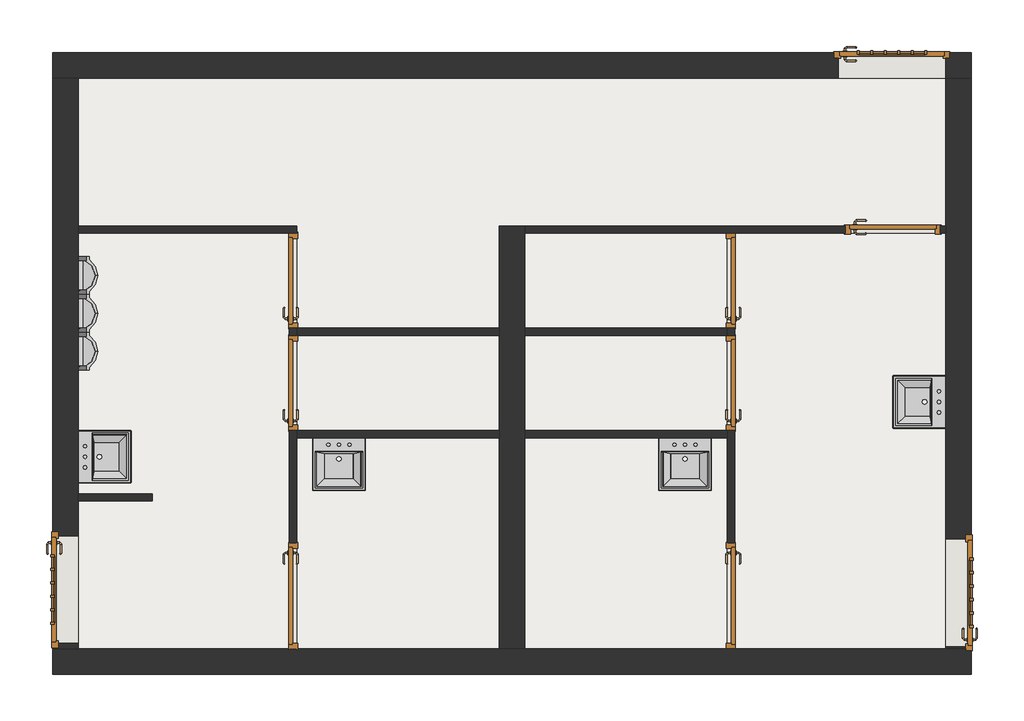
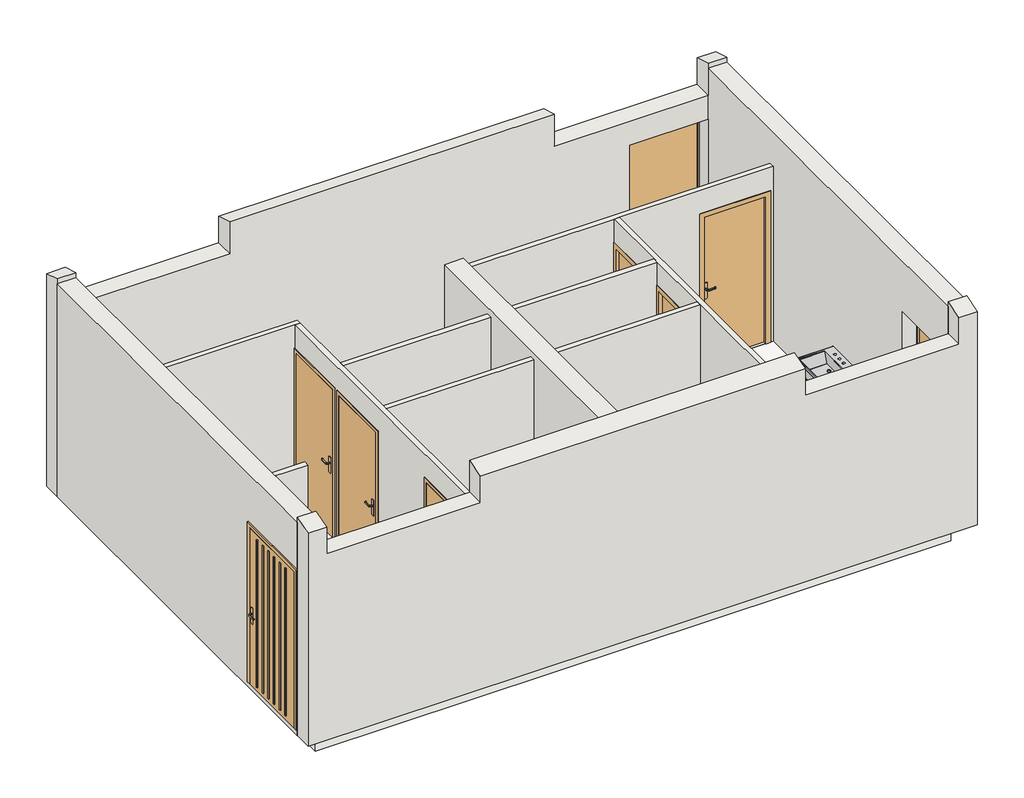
# One storey, incomplete: 14 walls, 10 doors, 7 flow terminals, 1 slab.
"""IFC4 building model written with IfcOpenShell, lengths in millimetres."""

from ifc_helpers import new_model, si_unit, frame, origin, origin_with_axes, place, context, project, spatial, polyline, outline, extrude, faceted_brep, transform, mapped, element, save
from components import door_6cb85fd8, door_bd890e63, simple_r_0_83m_x_2_04m_4088704a, simple_r_0_83m_x_2_04m_17fec2bd, simple_r_0_93m_x_2_04m_08e01e11, simple_r_0_93m_x_2_04m_b10a4dcd, flow_terminal_5b525c9b, lavabo_mural_02_400mm_x_500mm_55957bde, lavabo_mural_02_400mm_x_500mm_58a97094

model = new_model("IFC4")

# Units and contexts
model_context = context("Model", 3, world=origin())
ifc_project = project(units=[si_unit("LENGTHUNIT", "METRE", prefix="MILLI")], contexts=[model_context])

# Site, building, storey
site = spatial("IfcSite", under=ifc_project)
building = spatial("IfcBuilding", under=site)
storey = spatial("IfcBuildingStorey", under=building, Name="Repérage des pièces", Elevation=0.0)

# Doors
placement = place(None, origin())
door_shape = door_6cb85fd8(model_context)
element("IfcDoor", 1, ObjectType="PVC Panneau Vitré - Traverse et barreaux : 1 m x 2.15m", at=placement, inside=storey, context=model_context, shape_type="MappedRepresentation", body=[
    mapped(door_shape, transform((3992.180156, 27356.1413117, 0.0), x_axis=(1.0, 0.0, 0.0), y_axis=(0.0, 1.0, 0.0), z_axis=(0.0, 0.0, 1.0))),
])
door_2_shape = door_bd890e63(model_context)
element("IfcDoor", 2, ObjectType="PVC Panneau Vitré - Traverse et barreaux : 1 m x 2.15m", at=placement, inside=storey, context=model_context, shape_type="MappedRepresentation", body=[
    mapped(door_2_shape, transform((4622.180156, 22356.1413117, 0.0), x_axis=(0.0, 1.0, 0.0), y_axis=(-1.0, 0.0, 0.0), z_axis=(0.0, 0.0, 1.0))),
])
element("IfcDoor", 3, ObjectType="PVC Panneau Vitré - Traverse et barreaux : 1 m x 2.15m", at=placement, inside=storey, context=model_context, shape_type="MappedRepresentation", body=[
    mapped(door_2_shape, transform((-3837.819844, 22386.1413117, 0.0), x_axis=(0.0, -1.0, 0.0), y_axis=(1.0, 0.0, 0.0), z_axis=(0.0, 0.0, 1.0))),
])
simple_r_0_83m_x_2_04m_shape = simple_r_0_83m_x_2_04m_4088704a(model_context)
element("IfcDoor", 4, ObjectType="Simple (R) : 0.83m x 2.04m", at=placement, inside=storey, context=model_context, shape_type="MappedRepresentation", body=[
    mapped(simple_r_0_83m_x_2_04m_shape, transform((-1682.819844, 24346.1413117, 0.0), x_axis=(0.0, 1.0, 0.0), y_axis=(-1.0, 0.0, 0.0), z_axis=(0.0, 0.0, 1.0))),
])
element("IfcDoor", 5, ObjectType="Simple (R) : 0.83m x 2.04m", at=placement, inside=storey, context=model_context, shape_type="MappedRepresentation", body=[
    mapped(simple_r_0_83m_x_2_04m_shape, transform((-1682.819844, 25316.1413117, 0.0), x_axis=(0.0, 1.0, 0.0), y_axis=(-1.0, 0.0, 0.0), z_axis=(0.0, 0.0, 1.0))),
])
element("IfcDoor", 6, ObjectType="Simple (R) : 0.83m x 2.04m", at=placement, inside=storey, context=model_context, shape_type="MappedRepresentation", body=[
    mapped(simple_r_0_83m_x_2_04m_shape, transform((4002.180156, 25801.1413117, 0.0), x_axis=(1.0, 0.0, 0.0), y_axis=(0.0, 1.0, 0.0), z_axis=(0.0, 0.0, 1.0))),
])
simple_r_0_83m_x_2_04m_2_shape = simple_r_0_83m_x_2_04m_17fec2bd(model_context)
element("IfcDoor", 7, ObjectType="Simple (R) : 0.83m x 2.04m", at=placement, inside=storey, context=model_context, shape_type="MappedRepresentation", body=[
    mapped(simple_r_0_83m_x_2_04m_2_shape, transform((2467.180156, 25316.1413117, 0.0), x_axis=(0.0, 1.0, 0.0), y_axis=(-1.0, 0.0, 0.0), z_axis=(0.0, 0.0, 1.0))),
])
element("IfcDoor", 8, ObjectType="Simple (R) : 0.83m x 2.04m", at=placement, inside=storey, context=model_context, shape_type="MappedRepresentation", body=[
    mapped(simple_r_0_83m_x_2_04m_2_shape, transform((2467.180156, 24346.1413117, 0.0), x_axis=(0.0, 1.0, 0.0), y_axis=(-1.0, 0.0, 0.0), z_axis=(0.0, 0.0, 1.0))),
])
simple_r_0_93m_x_2_04m_shape = simple_r_0_93m_x_2_04m_08e01e11(model_context)
element("IfcDoor", 9, ObjectType="Simple (R) : 0.93m x 2.04m", at=placement, inside=storey, context=model_context, shape_type="MappedRepresentation", body=[
    mapped(simple_r_0_93m_x_2_04m_shape, transform((-1682.819844, 22326.1413117, 0.0), x_axis=(0.0, -1.0, 0.0), y_axis=(1.0, 0.0, 0.0), z_axis=(0.0, 0.0, 1.0))),
])
simple_r_0_93m_x_2_04m_2_shape = simple_r_0_93m_x_2_04m_b10a4dcd(model_context)
element("IfcDoor", 10, ObjectType="Simple (R) : 0.93m x 2.04m", at=placement, inside=storey, context=model_context, shape_type="MappedRepresentation", body=[
    mapped(simple_r_0_93m_x_2_04m_2_shape, transform((2467.180156, 22326.1413117, 0.0), x_axis=(0.0, -1.0, 0.0), y_axis=(1.0, 0.0, 0.0), z_axis=(0.0, 0.0, 1.0))),
])

# Flow terminals
flow_terminal_shape = flow_terminal_5b525c9b(model_context)
element("IfcFlowTerminal", 11, ObjectType="Urinoir - Mur : Urinoir - Mur", at=placement, inside=storey, context=model_context, shape_type="MappedRepresentation", body=[
    mapped(flow_terminal_shape, transform((-3837.819844, 25257.0667118, 0.0), x_axis=(0.0, -1.0, 0.0), y_axis=(1.0, 0.0, 0.0), z_axis=(0.0, 0.0, 1.0))),
])
element("IfcFlowTerminal", 12, ObjectType="Urinoir - Mur : Urinoir - Mur", at=placement, inside=storey, context=model_context, shape_type="MappedRepresentation", body=[
    mapped(flow_terminal_shape, transform((-3837.819844, 24897.0667118, 0.0), x_axis=(0.0, -1.0, 0.0), y_axis=(1.0, 0.0, 0.0), z_axis=(0.0, 0.0, 1.0))),
])
element("IfcFlowTerminal", 13, ObjectType="Urinoir - Mur : Urinoir - Mur", at=placement, inside=storey, context=model_context, shape_type="MappedRepresentation", body=[
    mapped(flow_terminal_shape, transform((-3837.819844, 24537.0667118, 0.0), x_axis=(0.0, -1.0, 0.0), y_axis=(1.0, 0.0, 0.0), z_axis=(0.0, 0.0, 1.0))),
])
lavabo_mural_02_400mm_x_500mm_shape = lavabo_mural_02_400mm_x_500mm_55957bde(model_context)
element("IfcFlowTerminal", 14, ObjectType="Lavabo mural - 02 : 400mm x 500mm", at=placement, inside=storey, context=model_context, shape_type="MappedRepresentation", body=[
    mapped(lavabo_mural_02_400mm_x_500mm_shape, transform((4622.180156, 24041.1413117, -0.3807718), x_axis=(0.0, 1.0, 0.0), y_axis=(-1.0, 0.0, 0.0), z_axis=(0.0, 0.0, 1.0))),
])
element("IfcFlowTerminal", 15, ObjectType="Lavabo mural - 02 : 400mm x 500mm", at=placement, inside=storey, context=model_context, shape_type="MappedRepresentation", body=[
    mapped(lavabo_mural_02_400mm_x_500mm_shape, transform((-3837.819844, 23771.1413117, -0.3807718), x_axis=(0.0, -1.0, 0.0), y_axis=(1.0, 0.0, 0.0), z_axis=(0.0, 0.0, 1.0))),
])
lavabo_mural_02_400mm_x_500mm_2_shape = lavabo_mural_02_400mm_x_500mm_58a97094(model_context)
element("IfcFlowTerminal", 16, ObjectType="Lavabo mural - 02 : 400mm x 500mm", at=placement, inside=storey, context=model_context, shape_type="MappedRepresentation", body=[
    mapped(lavabo_mural_02_400mm_x_500mm_2_shape, transform((-1122.819844, 23861.1413117, -0.3807718), x_axis=(-1.0, 0.0, 0.0), y_axis=(0.0, -1.0, 0.0), z_axis=(0.0, 0.0, 1.0))),
])
element("IfcFlowTerminal", 17, ObjectType="Lavabo mural - 02 : 400mm x 500mm", at=placement, inside=storey, context=model_context, shape_type="MappedRepresentation", body=[
    mapped(lavabo_mural_02_400mm_x_500mm_2_shape, transform((2157.180156, 23861.1413117, -0.3807718), x_axis=(-1.0, 0.0, 0.0), y_axis=(0.0, -1.0, 0.0), z_axis=(0.0, 0.0, 1.0))),
])

# Slab
element("IfcSlab", 18, ObjectType="Dalle Béton 8", at=placement, inside=storey, context=model_context, shape_type="SweptSolid", body=[
    extrude(outline(polyline([(-3737.819844, 27256.1413117), (4522.180156, 27256.1413117), (4522.180156, 21806.1413117), (-3737.819844, 21806.1413117), (-3737.819844, 27256.1413117)])), frame((0.0, 0.0, -350.0), z_axis=(0.0, 0.0, 1.0), x_axis=(1.0, 0.0, 0.0)), (0.0, 0.0, 1.0), 350.0),
])

# Walls
element("IfcWall", 19, ObjectType="Ext. Parping + enduit 2 faces", at=placement, inside=storey, context=model_context, shape_type="Brep", body=[
    faceted_brep([(4502.180156, 27236.1413117, -70.0), (4502.180156, 21826.1413117, -70.0), (4502.180156, 21826.1413117, 2490.0), (4502.180156, 21826.1413117, 2860.0), (4502.180156, 27236.1413117, 2860.0), (4502.180156, 27236.1413117, 2490.0), (4502.180156, 27236.1413117, 2160.0), (4502.180156, 27236.1413117, 0.0), (4502.180156, 22866.1413117, 2160.0), (4502.180156, 21846.1413117, 2160.0), (4502.180156, 21846.1413117, 0.0), (4502.180156, 22866.1413117, 0.0), (4742.180156, 21826.1413117, -70.0), (4742.180156, 27236.1413117, -70.0), (4742.180156, 27236.1413117, 2860.0), (4742.180156, 21826.1413117, 2860.0), (4742.180156, 21826.1413117, 2200.0), (4742.180156, 22906.1413117, 2200.0), (4742.180156, 22906.1413117, 0.0), (4742.180156, 22866.1413117, 0.0), (4742.180156, 21846.1413117, 0.0), (4742.180156, 21826.1413117, 0.0), (4692.180156, 21826.1413117, 0.0), (4692.180156, 21826.1413117, 2200.0), (4692.180156, 22866.1413117, 2160.0), (4692.180156, 21846.1413117, 2160.0), (4692.180156, 22906.1413117, 0.0), (4692.180156, 22866.1413117, 0.0), (4692.180156, 21846.1413117, 0.0), (4692.180156, 22906.1413117, 2200.0)], [[[0, 1, 2, 3, 4, 5, 6, 7], [8, 9, 10, 11]], [[12, 13, 14, 15, 16, 17, 18, 19, 20, 21]], [[1, 0, 13, 12]], [[4, 3, 15, 14]], [[13, 0, 7, 6, 5, 4, 14]], [[1, 12, 21, 22, 23, 16, 15, 3, 2]], [[24, 25, 9, 8]], [[18, 26, 27, 11, 10, 28, 22, 21, 20, 19]], [[25, 28, 10, 9]], [[27, 24, 8, 11]], [[25, 24, 27, 26, 29, 23, 22, 28]], [[29, 17, 16, 23]], [[26, 18, 17, 29]]]),
])
element("IfcWall", 20, ObjectType="Ext. Parping + enduit 2 faces", at=placement, inside=storey, context=model_context, shape_type="Brep", body=[
    faceted_brep([(4742.180156, 21826.1413117, -70.0), (4502.180156, 21826.1413117, -70.0), (512.180156, 21826.1413117, -70.0), (492.180156, 21826.1413117, -70.0), (292.180156, 21826.1413117, -70.0), (272.180156, 21826.1413117, -70.0), (-1647.819844, 21826.1413117, -70.0), (-1717.819844, 21826.1413117, -70.0), (-3717.819844, 21826.1413117, -70.0), (-3957.819844, 21826.1413117, -70.0), (-3957.819844, 21826.1413117, 2860.0), (-3957.819844, 21826.1413117, 2927.2607499), (-3717.819844, 21826.1413117, 2927.2607499), (-3717.819844, 21826.1413117, 2860.0), (-3717.819844, 21826.1413117, 2490.0), (-1717.819844, 21826.1413117, 2490.0), (-1717.819844, 21826.1413117, 2927.2607499), (2502.180156, 21826.1413117, 2927.2607499), (2502.180156, 21826.1413117, 2490.0), (4502.180156, 21826.1413117, 2490.0), (4502.180156, 21826.1413117, 2860.0), (4502.180156, 21826.1413117, 2927.2607499), (4742.180156, 21826.1413117, 2927.2607499), (4742.180156, 21826.1413117, 2860.0), (4742.180156, 21826.1413117, 2200.0), (4692.180156, 21826.1413117, 2200.0), (4692.180156, 21826.1413117, 0.0), (4742.180156, 21826.1413117, 0.0), (-3957.819844, 21586.1413117, -70.0), (4742.180156, 21586.1413117, -70.0), (4742.180156, 21586.1413117, 2853.8853864), (4502.180156, 21586.1413117, 2853.8853864), (4502.180156, 21586.1413117, 2490.0), (2502.180156, 21586.1413117, 2490.0), (2502.180156, 21586.1413117, 2853.8853864), (-1717.819844, 21586.1413117, 2853.8853864), (-1717.819844, 21586.1413117, 2490.0), (-3717.819844, 21586.1413117, 2490.0), (-3717.819844, 21586.1413117, 2853.8853864), (-3957.819844, 21586.1413117, 2853.8853864), (-3957.819844, 21806.1413117, -70.0), (4742.180156, 21806.1413117, 0.0), (4742.180156, 21806.1413117, 2200.0), (4692.180156, 21806.1413117, 0.0), (4692.180156, 21806.1413117, 2200.0)], [[[0, 1, 2, 3, 4, 5, 6, 7, 8, 9, 10, 11, 12, 13, 14, 15, 16, 17, 18, 19, 20, 21, 22, 23, 24, 25, 26, 27]], [[28, 29, 30, 31, 32, 33, 34, 35, 36, 37, 38, 39]], [[11, 10, 9, 40, 28, 39]], [[9, 8, 7, 6, 5, 4, 3, 2, 1, 0, 29, 28, 40]], [[14, 13, 12, 38, 37]], [[15, 14, 37, 36]], [[16, 15, 36, 35]], [[18, 17, 34, 33]], [[19, 18, 33, 32]], [[21, 20, 19, 32, 31]], [[11, 39, 38, 12]], [[17, 16, 35, 34]], [[30, 22, 21, 31]], [[29, 0, 27, 41, 42, 24, 23, 22, 30]], [[43, 41, 27, 26]], [[41, 43, 44, 42]], [[44, 43, 26, 25]], [[42, 44, 25, 24]]]),
])
element("IfcWall", 21, ObjectType="Ext. Parping + enduit 2 faces", at=placement, inside=storey, context=model_context, shape_type="Brep", body=[
    faceted_brep([(-3717.819844, 21826.1413117, -70.0), (-3717.819844, 27236.1413117, -70.0), (-3717.819844, 27236.1413117, 2490.0), (-3717.819844, 27236.1413117, 2860.0), (-3717.819844, 21826.1413117, 2860.0), (-3717.819844, 21826.1413117, 2490.0), (-3717.819844, 21876.1413117, 2160.0), (-3717.819844, 22896.1413117, 2160.0), (-3717.819844, 22896.1413117, 0.0), (-3717.819844, 21876.1413117, 0.0), (-3957.819844, 27236.1413117, -70.0), (-3957.819844, 21826.1413117, -70.0), (-3957.819844, 21826.1413117, 2860.0), (-3957.819844, 27236.1413117, 2860.0), (-3957.819844, 22896.1413117, 0.0), (-3957.819844, 22936.1413117, 0.0), (-3957.819844, 22936.1413117, 2200.0), (-3957.819844, 21836.1413117, 2200.0), (-3957.819844, 21836.1413117, 0.0), (-3957.819844, 21876.1413117, 0.0), (-3907.819844, 21876.1413117, 2160.0), (-3907.819844, 22896.1413117, 2160.0), (-3907.819844, 22896.1413117, 0.0), (-3907.819844, 22936.1413117, 0.0), (-3907.819844, 21836.1413117, 0.0), (-3907.819844, 21876.1413117, 0.0), (-3907.819844, 22936.1413117, 2200.0), (-3907.819844, 21836.1413117, 2200.0)], [[[0, 1, 2, 3, 4, 5], [6, 7, 8, 9]], [[10, 11, 12, 13], [14, 15, 16, 17, 18, 19]], [[1, 0, 11, 10]], [[4, 3, 13, 12]], [[4, 12, 11, 0, 5]], [[1, 10, 13, 3, 2]], [[20, 21, 7, 6]], [[22, 23, 15, 14, 19, 18, 24, 25, 9, 8]], [[21, 22, 8, 7]], [[25, 20, 6, 9]], [[15, 23, 26, 16]], [[21, 20, 25, 24, 27, 26, 23, 22]], [[16, 26, 27, 17]], [[24, 18, 17, 27]]]),
])
element("IfcWall", 22, ObjectType="Ext. Parping + enduit 2 faces", at=placement, inside=storey, context=model_context, shape_type="Brep", body=[
    faceted_brep([(4742.180156, 27476.1413117, -70.0), (-3957.819844, 27476.1413117, -70.0), (-3957.819844, 27476.1413117, 2853.8853864), (-3717.819844, 27476.1413117, 2853.8853864), (-3717.819844, 27476.1413117, 2490.0), (-1717.819844, 27476.1413117, 2490.0), (-1717.819844, 27476.1413117, 2853.8853864), (2502.180156, 27476.1413117, 2853.8853864), (2502.180156, 27476.1413117, 2490.0), (4502.180156, 27476.1413117, 2490.0), (4502.180156, 27476.1413117, 2853.8853864), (4742.180156, 27476.1413117, 2853.8853864), (4502.180156, 27476.1413117, 0.0), (4542.180156, 27476.1413117, 0.0), (4542.180156, 27476.1413117, 2200.0), (3442.180156, 27476.1413117, 2200.0), (3442.180156, 27476.1413117, 0.0), (3482.180156, 27476.1413117, 0.0), (-3957.819844, 27236.1413117, -70.0), (-3717.819844, 27236.1413117, -70.0), (4502.180156, 27236.1413117, -70.0), (4742.180156, 27236.1413117, -70.0), (4742.180156, 27236.1413117, 2860.0), (4742.180156, 27236.1413117, 2927.2607499), (4502.180156, 27236.1413117, 2927.2607499), (4502.180156, 27236.1413117, 2860.0), (4502.180156, 27236.1413117, 2490.0), (2502.180156, 27236.1413117, 2490.0), (2502.180156, 27236.1413117, 2927.2607499), (-1717.819844, 27236.1413117, 2927.2607499), (-1717.819844, 27236.1413117, 2490.0), (-3717.819844, 27236.1413117, 2490.0), (-3717.819844, 27236.1413117, 2860.0), (-3717.819844, 27236.1413117, 2927.2607499), (-3957.819844, 27236.1413117, 2927.2607499), (-3957.819844, 27236.1413117, 2860.0), (3482.180156, 27236.1413117, 2160.0), (4502.180156, 27236.1413117, 2160.0), (4502.180156, 27236.1413117, 0.0), (3482.180156, 27236.1413117, 0.0), (-3957.819844, 27256.1413117, -70.0), (4742.180156, 27256.1413117, -70.0), (3482.180156, 27426.1413117, 2160.0), (4502.180156, 27426.1413117, 2160.0), (4502.180156, 27426.1413117, 0.0), (4542.180156, 27426.1413117, 0.0), (3442.180156, 27426.1413117, 0.0), (3482.180156, 27426.1413117, 0.0), (3442.180156, 27426.1413117, 2200.0), (4542.180156, 27426.1413117, 2200.0)], [[[0, 1, 2, 3, 4, 5, 6, 7, 8, 9, 10, 11], [12, 13, 14, 15, 16, 17]], [[18, 19, 20, 21, 22, 23, 24, 25, 26, 27, 28, 29, 30, 31, 32, 33, 34, 35], [36, 37, 38, 39]], [[2, 1, 40, 18, 35, 34]], [[0, 11, 23, 22, 21, 41]], [[1, 0, 41, 21, 20, 19, 18, 40]], [[4, 3, 33, 32, 31]], [[5, 4, 31, 30]], [[6, 5, 30, 29]], [[8, 7, 28, 27]], [[9, 8, 27, 26]], [[10, 9, 26, 25, 24]], [[11, 10, 24, 23]], [[7, 6, 29, 28]], [[3, 2, 34, 33]], [[42, 43, 37, 36]], [[44, 45, 13, 12, 17, 16, 46, 47, 39, 38]], [[47, 42, 36, 39]], [[43, 44, 38, 37]], [[46, 16, 15, 48]], [[43, 42, 47, 46, 48, 49, 45, 44]], [[48, 15, 14, 49]], [[13, 45, 49, 14]]]),
])
element("IfcWall", 23, ObjectType="Ext. Parping + enduit 2 faces", at=placement, inside=storey, context=model_context, shape_type="SweptSolid", body=[
    extrude(outline(polyline([(512.180156, 25836.1413117), (512.180156, 21826.1413117), (272.180156, 21826.1413117), (272.180156, 25836.1413117), (512.180156, 25836.1413117)])), frame((0.0, 0.0, -70.0), z_axis=(0.0, 0.0, 1.0), x_axis=(1.0, 0.0, 0.0)), (0.0, 0.0, 1.0), 2560.0),
])
element("IfcWall", 24, ObjectType="Int. plâtre carreaux 70 mm", at=placement, inside=storey, context=model_context, shape_type="Brep", body=[
    faceted_brep([(-3717.819844, 25766.1413117, -70.0), (-1717.819844, 25766.1413117, -70.0), (-1647.819844, 25766.1413117, -70.0), (-1647.819844, 25766.1413117, 0.0), (-1647.819844, 25766.1413117, 2075.0), (-1647.819844, 25766.1413117, 2400.0), (-1717.819844, 25766.1413117, 2400.0), (-3717.819844, 25766.1413117, 2400.0), (-3717.819844, 25836.1413117, -70.0), (-3717.819844, 25836.1413117, 2400.0), (-1647.819844, 25836.1413117, 2400.0), (-1647.819844, 25836.1413117, -70.0)], [[[0, 1, 2, 3, 4, 5, 6, 7]], [[8, 9, 10, 11]], [[2, 1, 0, 8, 11]], [[7, 6, 5, 10, 9]], [[0, 7, 9, 8]], [[5, 4, 3, 2, 11, 10]]]),
])
element("IfcWall", 25, ObjectType="Int. plâtre carreaux 70 mm", at=placement, inside=storey, context=model_context, shape_type="Brep", body=[
    faceted_brep([(2432.180156, 22826.1413117, 2075.0), (2432.180156, 21826.1413117, 2075.0), (2432.180156, 21826.1413117, 2400.0), (2432.180156, 23826.1413117, 2400.0), (2432.180156, 23896.1413117, 2400.0), (2432.180156, 24796.1413117, 2400.0), (2432.180156, 24866.1413117, 2400.0), (2432.180156, 25766.1413117, 2400.0), (2432.180156, 25766.1413117, 2075.0), (2432.180156, 24866.1413117, 2075.0), (2432.180156, 24866.1413117, 0.0), (2432.180156, 25766.1413117, 0.0), (2432.180156, 25766.1413117, -70.0), (2432.180156, 24866.1413117, -70.0), (2432.180156, 24796.1413117, -70.0), (2432.180156, 23896.1413117, -70.0), (2432.180156, 23826.1413117, -70.0), (2432.180156, 21826.1413117, -70.0), (2432.180156, 21826.1413117, 0.0), (2432.180156, 22826.1413117, 0.0), (2432.180156, 24796.1413117, 0.0), (2432.180156, 24796.1413117, 2075.0), (2432.180156, 23896.1413117, 2075.0), (2432.180156, 23896.1413117, 0.0), (2502.180156, 21826.1413117, 2400.0), (2502.180156, 21826.1413117, 2075.0), (2502.180156, 22826.1413117, 2075.0), (2502.180156, 22826.1413117, 0.0), (2502.180156, 21826.1413117, 0.0), (2502.180156, 21826.1413117, -70.0), (2502.180156, 25766.1413117, -70.0), (2502.180156, 25766.1413117, 0.0), (2502.180156, 24866.1413117, 0.0), (2502.180156, 24866.1413117, 2075.0), (2502.180156, 25766.1413117, 2075.0), (2502.180156, 25766.1413117, 2400.0), (2502.180156, 24796.1413117, 0.0), (2502.180156, 23896.1413117, 0.0), (2502.180156, 23896.1413117, 2075.0), (2502.180156, 24796.1413117, 2075.0)], [[[0, 1, 2, 3, 4, 5, 6, 7, 8, 9, 10, 11, 12, 13, 14, 15, 16, 17, 18, 19], [20, 21, 22, 23]], [[24, 25, 26, 27, 28, 29, 30, 31, 32, 33, 34, 35], [36, 37, 38, 39]], [[17, 16, 15, 14, 13, 12, 30, 29]], [[2, 1, 25, 24]], [[18, 17, 29, 28]], [[7, 6, 5, 4, 3, 2, 24, 35]], [[35, 34, 8, 7]], [[31, 30, 12, 11]], [[9, 8, 34, 33]], [[10, 9, 33, 32]], [[11, 10, 32, 31]], [[26, 25, 1, 0]], [[27, 26, 0, 19]], [[28, 27, 19, 18]], [[21, 20, 36, 39]], [[22, 21, 39, 38]], [[23, 22, 38, 37]], [[20, 23, 37, 36]]]),
])
element("IfcWall", 26, ObjectType="Int. plâtre carreaux 70 mm", at=placement, inside=storey, context=model_context, shape_type="Brep", body=[
    faceted_brep([(512.180156, 25766.1413117, -70.0), (2432.180156, 25766.1413117, -70.0), (2502.180156, 25766.1413117, -70.0), (4502.180156, 25766.1413117, -70.0), (4502.180156, 25766.1413117, 2400.0), (2502.180156, 25766.1413117, 2400.0), (2432.180156, 25766.1413117, 2400.0), (512.180156, 25766.1413117, 2400.0), (4452.180156, 25766.1413117, 0.0), (3552.180156, 25766.1413117, 0.0), (3552.180156, 25766.1413117, 2075.0), (4452.180156, 25766.1413117, 2075.0), (512.180156, 25836.1413117, -70.0), (512.180156, 25836.1413117, 2400.0), (4502.180156, 25836.1413117, 2400.0), (4502.180156, 25836.1413117, -70.0), (4452.180156, 25836.1413117, 0.0), (4452.180156, 25836.1413117, 2075.0), (3552.180156, 25836.1413117, 2075.0), (3552.180156, 25836.1413117, 0.0)], [[[0, 1, 2, 3, 4, 5, 6, 7], [8, 9, 10, 11]], [[12, 13, 14, 15], [16, 17, 18, 19]], [[3, 2, 1, 0, 12, 15]], [[4, 3, 15, 14]], [[7, 6, 5, 4, 14, 13]], [[0, 7, 13, 12]], [[17, 16, 8, 11]], [[18, 17, 11, 10]], [[19, 18, 10, 9]], [[16, 19, 9, 8]]]),
])
element("IfcWall", 27, ObjectType="Int. plâtre carreaux 70 mm", at=placement, inside=storey, context=model_context, shape_type="Brep", body=[
    faceted_brep([(-1717.819844, 22826.1413117, 2075.0), (-1717.819844, 21826.1413117, 2075.0), (-1717.819844, 21826.1413117, 2400.0), (-1717.819844, 25766.1413117, 2400.0), (-1717.819844, 25766.1413117, 2075.0), (-1717.819844, 24866.1413117, 2075.0), (-1717.819844, 24866.1413117, 0.0), (-1717.819844, 25766.1413117, 0.0), (-1717.819844, 25766.1413117, -70.0), (-1717.819844, 21826.1413117, -70.0), (-1717.819844, 21826.1413117, 0.0), (-1717.819844, 22826.1413117, 0.0), (-1717.819844, 24796.1413117, 0.0), (-1717.819844, 24796.1413117, 2075.0), (-1717.819844, 23896.1413117, 2075.0), (-1717.819844, 23896.1413117, 0.0), (-1647.819844, 21826.1413117, 2400.0), (-1647.819844, 21826.1413117, 2075.0), (-1647.819844, 22826.1413117, 2075.0), (-1647.819844, 22826.1413117, 0.0), (-1647.819844, 21826.1413117, 0.0), (-1647.819844, 21826.1413117, -70.0), (-1647.819844, 23826.1413117, -70.0), (-1647.819844, 23896.1413117, -70.0), (-1647.819844, 24796.1413117, -70.0), (-1647.819844, 24866.1413117, -70.0), (-1647.819844, 25766.1413117, -70.0), (-1647.819844, 25766.1413117, 0.0), (-1647.819844, 24866.1413117, 0.0), (-1647.819844, 24866.1413117, 2075.0), (-1647.819844, 25766.1413117, 2075.0), (-1647.819844, 25766.1413117, 2400.0), (-1647.819844, 24866.1413117, 2400.0), (-1647.819844, 24796.1413117, 2400.0), (-1647.819844, 23896.1413117, 2400.0), (-1647.819844, 23826.1413117, 2400.0), (-1647.819844, 24796.1413117, 0.0), (-1647.819844, 23896.1413117, 0.0), (-1647.819844, 23896.1413117, 2075.0), (-1647.819844, 24796.1413117, 2075.0)], [[[0, 1, 2, 3, 4, 5, 6, 7, 8, 9, 10, 11], [12, 13, 14, 15]], [[16, 17, 18, 19, 20, 21, 22, 23, 24, 25, 26, 27, 28, 29, 30, 31, 32, 33, 34, 35], [36, 37, 38, 39]], [[9, 8, 26, 25, 24, 23, 22, 21]], [[3, 2, 16, 35, 34, 33, 32, 31]], [[31, 30, 4, 3]], [[27, 26, 8, 7]], [[2, 1, 17, 16]], [[10, 9, 21, 20]], [[5, 4, 30, 29]], [[6, 5, 29, 28]], [[7, 6, 28, 27]], [[18, 17, 1, 0]], [[19, 18, 0, 11]], [[20, 19, 11, 10]], [[13, 12, 36, 39]], [[14, 13, 39, 38]], [[15, 14, 38, 37]], [[12, 15, 37, 36]]]),
])
element("IfcWall", 28, ObjectType="Int. plâtre carreaux 70 mm", at=placement, inside=storey, context=model_context, shape_type="Brep", body=[
    faceted_brep([(-1647.819844, 24796.1413117, -70.0), (272.180156, 24796.1413117, -70.0), (272.180156, 24796.1413117, 2400.0), (-1647.819844, 24796.1413117, 2400.0), (-1647.819844, 24796.1413117, 2075.0), (-1647.819844, 24796.1413117, 0.0), (-1647.819844, 24866.1413117, -70.0), (-1647.819844, 24866.1413117, 0.0), (-1647.819844, 24866.1413117, 2075.0), (-1647.819844, 24866.1413117, 2400.0), (272.180156, 24866.1413117, 2400.0), (272.180156, 24866.1413117, -70.0)], [[[0, 1, 2, 3, 4, 5]], [[6, 7, 8, 9, 10, 11]], [[1, 0, 6, 11]], [[2, 1, 11, 10]], [[3, 2, 10, 9]], [[0, 5, 4, 3, 9, 8, 7, 6]]]),
])
element("IfcWall", 29, ObjectType="Int. plâtre carreaux 70 mm", at=placement, inside=storey, context=model_context, shape_type="Brep", body=[
    faceted_brep([(-1647.819844, 23826.1413117, -70.0), (272.180156, 23826.1413117, -70.0), (272.180156, 23826.1413117, 2400.0), (-1647.819844, 23826.1413117, 2400.0), (-1647.819844, 23896.1413117, -70.0), (-1647.819844, 23896.1413117, 0.0), (-1647.819844, 23896.1413117, 2075.0), (-1647.819844, 23896.1413117, 2400.0), (272.180156, 23896.1413117, 2400.0), (272.180156, 23896.1413117, -70.0)], [[[0, 1, 2, 3]], [[4, 5, 6, 7, 8, 9]], [[1, 0, 4, 9]], [[2, 1, 9, 8]], [[3, 2, 8, 7]], [[0, 3, 7, 6, 5, 4]]]),
])
element("IfcWall", 30, ObjectType="Int. plâtre carreaux 70 mm", at=placement, inside=storey, context=model_context, shape_type="Brep", body=[
    faceted_brep([(512.180156, 24796.1413117, -70.0), (2432.180156, 24796.1413117, -70.0), (2432.180156, 24796.1413117, 0.0), (2432.180156, 24796.1413117, 2075.0), (2432.180156, 24796.1413117, 2400.0), (512.180156, 24796.1413117, 2400.0), (512.180156, 24866.1413117, -70.0), (512.180156, 24866.1413117, 2400.0), (2432.180156, 24866.1413117, 2400.0), (2432.180156, 24866.1413117, 2075.0), (2432.180156, 24866.1413117, 0.0), (2432.180156, 24866.1413117, -70.0)], [[[0, 1, 2, 3, 4, 5]], [[6, 7, 8, 9, 10, 11]], [[1, 0, 6, 11]], [[5, 4, 8, 7]], [[0, 5, 7, 6]], [[4, 3, 2, 1, 11, 10, 9, 8]]]),
])
element("IfcWall", 31, ObjectType="Int. plâtre carreaux 70 mm", at=placement, inside=storey, context=model_context, shape_type="Brep", body=[
    faceted_brep([(512.180156, 23826.1413117, -70.0), (2432.180156, 23826.1413117, -70.0), (2432.180156, 23826.1413117, 2400.0), (512.180156, 23826.1413117, 2400.0), (512.180156, 23896.1413117, -70.0), (512.180156, 23896.1413117, 2400.0), (2432.180156, 23896.1413117, 2400.0), (2432.180156, 23896.1413117, 2075.0), (2432.180156, 23896.1413117, 0.0), (2432.180156, 23896.1413117, -70.0)], [[[0, 1, 2, 3]], [[4, 5, 6, 7, 8, 9]], [[1, 0, 4, 9]], [[3, 2, 6, 5]], [[0, 3, 5, 4]], [[2, 1, 9, 8, 7, 6]]]),
])
element("IfcWall", 32, ObjectType="Int. plâtre carreaux 70 mm", at=placement, inside=storey, context=model_context, shape_type="SweptSolid", body=[
    extrude(outline(polyline([(-3017.819844, 23226.1413117), (-3717.819844, 23226.1413117), (-3717.819844, 23296.1413117), (-3017.819844, 23296.1413117), (-3017.819844, 23226.1413117)])), origin_with_axes(), (0.0, 0.0, 1.0), 2470.0),
])

save(model, "model.ifc")
